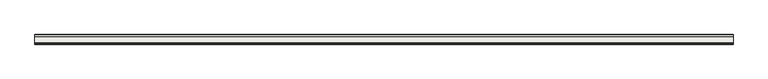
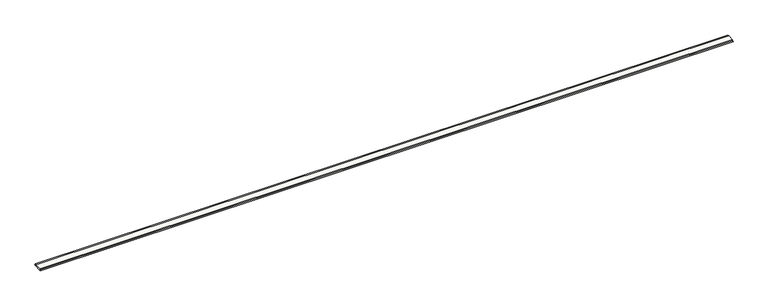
"""IFC4 building model written with IfcOpenShell, lengths in millimetres: slab geometry, ROSA GRES_I25_Inclinación : Pieza I25_Tao_Beige_Anti-Slip."""

from ifc_helpers import new_model, si_unit, point, frame, frame_2d, origin, place, context, project, spatial, polyline, circle_curve, trimmed, segment, composite_curve, outline, extrude, source, transform, mapped, element, save


def slab_3f97a147(model_context):
    return source(origin(), model_context, "Body", "SweptSolid", [
        extrude(outline(composite_curve([segment(polyline([(239.502845, 41.5733833), (248.1421086, 20.183002), (0.0, 0.0), (5.0466881, 22.4539349)]), True, "CONTINUOUS"), segment(trimmed(circle_curve(frame_2d((142.3596866, -685.9166532)), 721.556477), [point((5.0466881, 22.4539349))], [point((40.5673305, 28.4236479))], False, "CARTESIAN"), True, "CONTINUOUS"), segment(polyline([(40.5673305, 28.4236479), (203.9346385, 41.7113673)]), True, "CONTINUOUS"), segment(trimmed(circle_curve(frame_2d((218.9203921, -679.689476)), 721.556477), [point((203.9346385, 41.7113673))], [point((239.502845, 41.5733833))], False, "CARTESIAN"), True, "CONTINUOUS")], self_intersect=False)), frame((0.0, 0.0, 0.0), z_axis=(1.0, 0.0, 0.0), x_axis=(0.0, 1.0, 0.0)), (0.0, 0.0, 1.0), 17991.0),
    ])


if __name__ == "__main__":
    model = new_model("IFC4")
    model_context = context("Model", 3, world=origin())
    ifc_project = project(units=[si_unit("LENGTHUNIT", "METRE", prefix="MILLI")], contexts=[model_context])
    site = spatial("IfcSite", under=ifc_project)
    building = spatial("IfcBuilding", under=site)
    placement = place(None, origin())
    slab_shape = slab_3f97a147(model_context)
    element("IfcSlab", 1, ObjectType="ROSA GRES_I25_Inclinación : Pieza I25_Tao_Beige_Anti-Slip", at=placement, inside=building, context=model_context, shape_type="MappedRepresentation", body=[
        mapped(slab_shape, transform((0.0, 0.0, 0.0), x_axis=(1.0, 0.0, 0.0), y_axis=(0.0, 1.0, 0.0), z_axis=(0.0, 0.0, 1.0))),
    ])
    save(model, "model.ifc")
